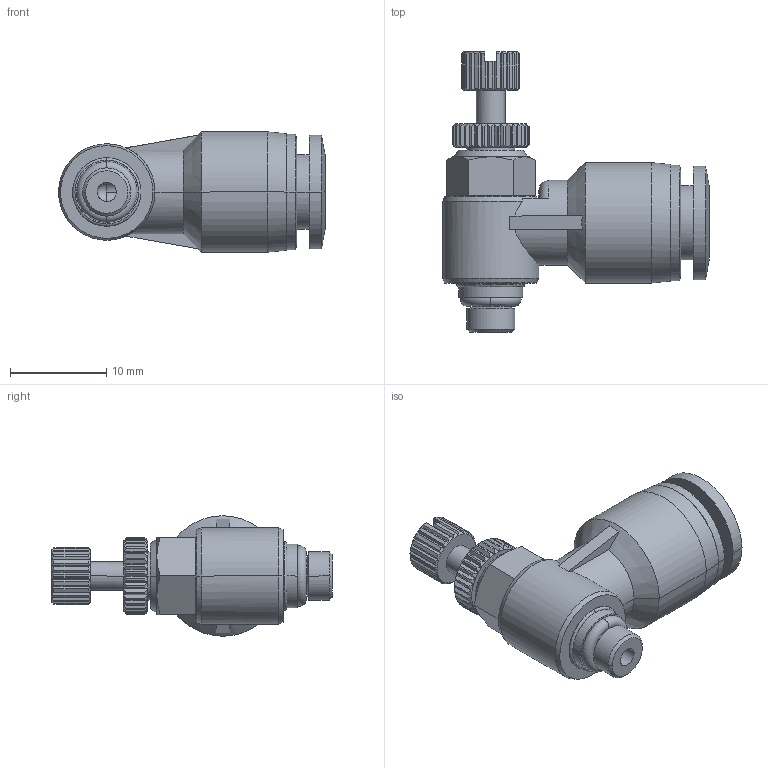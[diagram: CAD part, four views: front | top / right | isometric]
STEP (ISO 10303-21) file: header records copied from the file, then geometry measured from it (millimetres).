
FILE_DESCRIPTION (( 'STEP AP203' ), '1' );
FILE_NAME ('SCL06-M5.STEP', '2020-05-12T15:35:43', ( '' ), ( '' ), 'SwSTEP 2.0', 'SolidWorks 2019', '' );
FILE_SCHEMA (( 'CONFIG_CONTROL_DESIGN' ));
Length unit declared in the file: millimetre
Products named in the file (1): SCL06-M5
Bounding box: 27.7 x 29.1 x 12.5 mm (x, y, z)
Surface area: 2329.8 mm2 (no closed solid volume)
Topology: 0 solids, 4 shells, 346 faces, 866 edges, 537 vertices
Faces by surface type: plane 153, cylinder 96, cone 81, torus 15, sphere 1
Entity records: 12548 total; most frequent: CARTESIAN_POINT 5842, ORIENTED_EDGE 1722, EDGE_CURVE 865, DIRECTION 787, B_SPLINE_CURVE_WITH_KNOTS 786, VERTEX_POINT 537, EDGE_LOOP 364, AXIS2_PLACEMENT_3D 361
